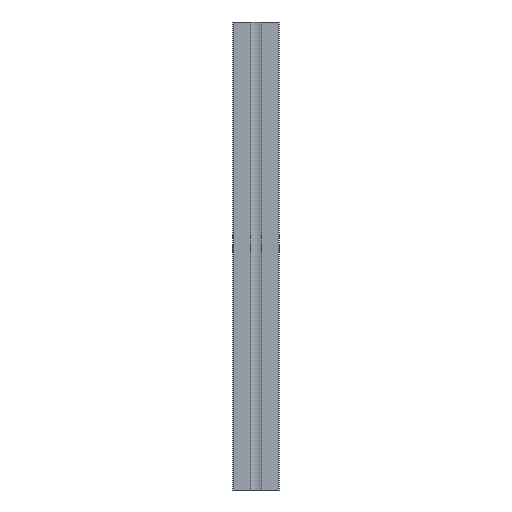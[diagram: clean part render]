
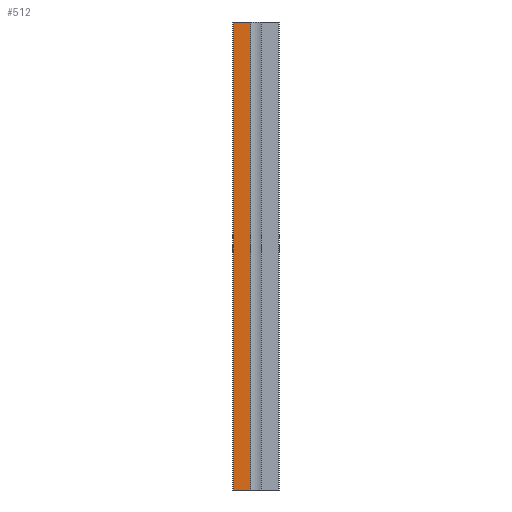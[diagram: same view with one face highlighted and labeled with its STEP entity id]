
A CAD part, left-side view. The second image highlights one B-rep face of the part: STEP entity #512.
In plain terms, the highlighted planar face has unit normal (-1, 0, 0).
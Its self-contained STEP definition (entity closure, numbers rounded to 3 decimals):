
#7 = CARTESIAN_POINT ( 'NONE',  ( -15., 3.25, -150. ) ) ;
#25 = CARTESIAN_POINT ( 'NONE',  ( -15., 14.2, -150. ) ) ;
#55 = LINE ( 'NONE', #1089, #385 ) ;
#131 = VERTEX_POINT ( 'NONE', #741 ) ;
#184 = ORIENTED_EDGE ( 'NONE', *, *, #1239, .F. ) ;
#224 = VERTEX_POINT ( 'NONE', #7 ) ;
#259 = ORIENTED_EDGE ( 'NONE', *, *, #520, .T. ) ;
#307 = VERTEX_POINT ( 'NONE', #1383 ) ;
#321 = DIRECTION ( 'NONE',  ( 0., -1., 0. ) ) ;
#385 = VECTOR ( 'NONE', #1758, 1000. ) ;
#435 = DIRECTION ( 'NONE',  ( 0., 0., -1. ) ) ;
#512 = ADVANCED_FACE ( 'NONE', ( #1525 ), #761, .F. ) ;
#520 = EDGE_CURVE ( 'NONE', #131, #1105, #55, .T. ) ;
#591 = LINE ( 'NONE', #25, #1574 ) ;
#720 = LINE ( 'NONE', #996, #1555 ) ;
#741 = CARTESIAN_POINT ( 'NONE',  ( -15., 14.2, 150. ) ) ;
#761 = PLANE ( 'NONE',  #809 ) ;
#809 = AXIS2_PLACEMENT_3D ( 'NONE', #999, #1611, #1426 ) ;
#996 = CARTESIAN_POINT ( 'NONE',  ( -15., 3.25, 150. ) ) ;
#999 = CARTESIAN_POINT ( 'NONE',  ( -15., 14.2, 150. ) ) ;
#1071 = LINE ( 'NONE', #1841, #1693 ) ;
#1089 = CARTESIAN_POINT ( 'NONE',  ( -15., 14.2, 150. ) ) ;
#1102 = EDGE_CURVE ( 'NONE', #1105, #224, #591, .T. ) ;
#1105 = VERTEX_POINT ( 'NONE', #1115 ) ;
#1115 = CARTESIAN_POINT ( 'NONE',  ( -15., 14.2, -150. ) ) ;
#1239 = EDGE_CURVE ( 'NONE', #131, #307, #1071, .T. ) ;
#1383 = CARTESIAN_POINT ( 'NONE',  ( -15., 3.25, 150. ) ) ;
#1386 = EDGE_CURVE ( 'NONE', #307, #224, #720, .T. ) ;
#1400 = ORIENTED_EDGE ( 'NONE', *, *, #1386, .F. ) ;
#1426 = DIRECTION ( 'NONE',  ( 0., 0., -1. ) ) ;
#1525 = FACE_OUTER_BOUND ( 'NONE', #1581, .T. ) ;
#1555 = VECTOR ( 'NONE', #435, 1000. ) ;
#1574 = VECTOR ( 'NONE', #1689, 1000. ) ;
#1581 = EDGE_LOOP ( 'NONE', ( #1782, #1400, #184, #259 ) ) ;
#1611 = DIRECTION ( 'NONE',  ( 1., 0., 0. ) ) ;
#1689 = DIRECTION ( 'NONE',  ( 0., -1., 0. ) ) ;
#1693 = VECTOR ( 'NONE', #321, 1000. ) ;
#1758 = DIRECTION ( 'NONE',  ( 0., 0., -1. ) ) ;
#1782 = ORIENTED_EDGE ( 'NONE', *, *, #1102, .T. ) ;
#1841 = CARTESIAN_POINT ( 'NONE',  ( -15., 14.2, 150. ) ) ;
